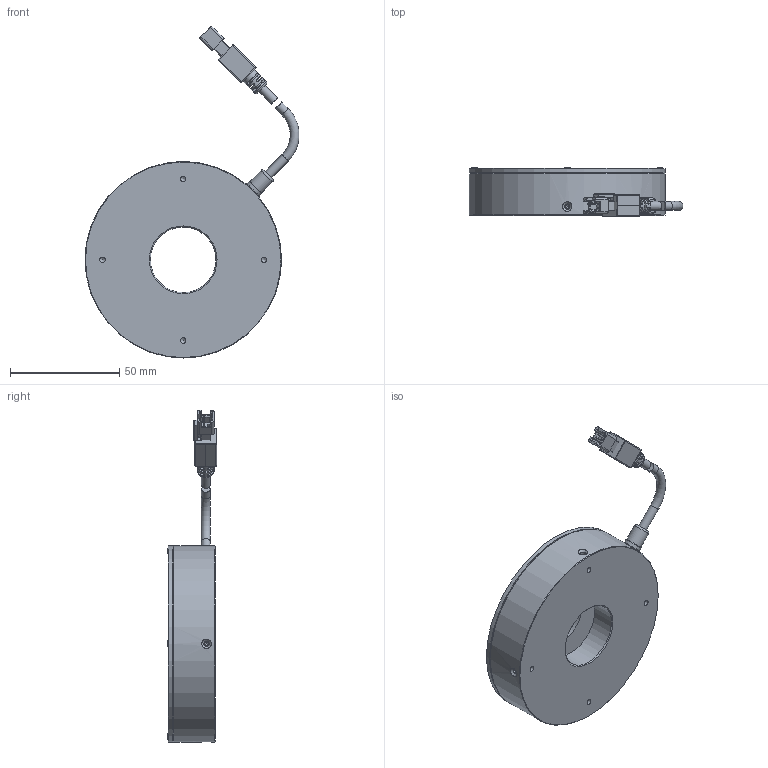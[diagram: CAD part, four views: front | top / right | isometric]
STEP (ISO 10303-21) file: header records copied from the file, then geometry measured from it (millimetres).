
FILE_DESCRIPTION (( 'STEP AP203' ), '1' );
FILE_NAME ('OPT-RI9000-X-V5.0U尨砩芞.STEP', '2024-12-12T08:56:51', ( '' ), ( '' ), 'SwSTEP 2.0', 'SolidWorks 2016', '' );
FILE_SCHEMA (( 'CONFIG_CONTROL_DESIGN' ));
Length unit declared in the file: millimetre
Products named in the file (1): OPT-RI9000-X-V5.0U尨砩芞
Bounding box: 98.04 x 22.7 x 152.11 mm (x, y, z)
Volume: 88165.7 mm3; surface area: 37337.6 mm2
Topology: 11 solids, 11 shells, 434 faces, 1090 edges, 693 vertices
Faces by surface type: plane 241, cylinder 130, cone 32, bspline 22, torus 9
Full cylindrical faces by diameter (mm): 1.1 x4, 1.4 x4, 1.6 x4, 1.7 x4, 2.4 x4, 2.5 x4, 2.6 x4, 3.5 x1, 4.1 x4, 5.8 x1, 7.5 x2, 8 x1, 30 x2, 81.8 x1, 90 x2
Entity records: 13506 total; most frequent: CARTESIAN_POINT 3639, DIRECTION 1968, ORIENTED_EDGE 1952, EDGE_CURVE 976, AXIS2_PLACEMENT_3D 665, VERTEX_POINT 664, VECTOR 638, LINE 638
